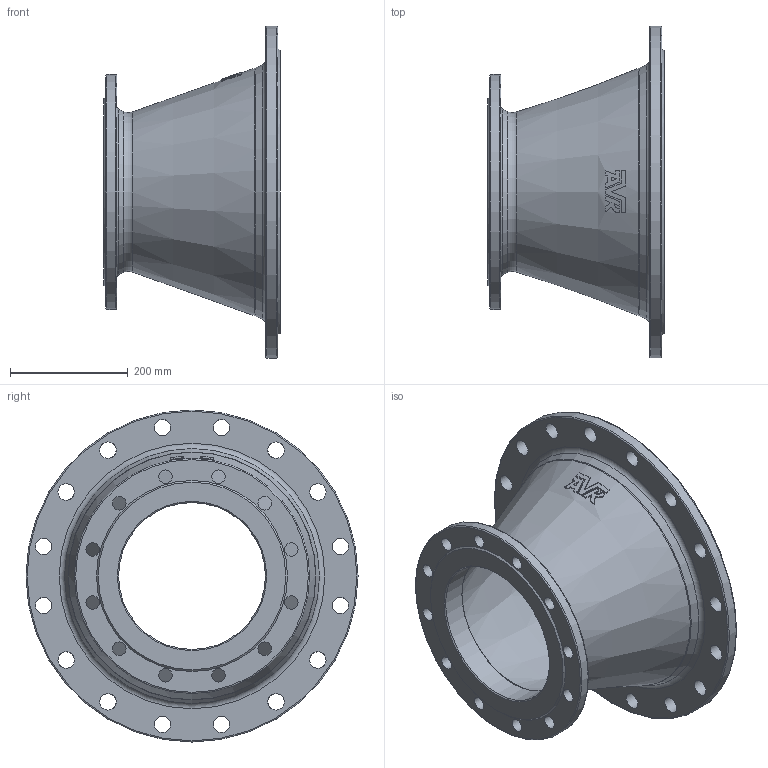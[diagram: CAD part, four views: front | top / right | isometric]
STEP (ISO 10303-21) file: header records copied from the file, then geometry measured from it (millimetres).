
FILE_DESCRIPTION (( 'STEP AP203' ), '1' );
FILE_NAME ('O_712_2210_DN400_DN250_0X_REV01.step', '2024-08-08T06:44:58', ( '' ), ( '' ), 'SwSTEP 2.0', 'SolidWorks 2022', '' );
FILE_SCHEMA (( 'CONFIG_CONTROL_DESIGN' ));
Length unit declared in the file: millimetre
Products named in the file (1): O_712_2210_DN400_DN250_0X_REV01
Bounding box: 300 x 565 x 565 mm (x, y, z)
Volume: 6819544.1 mm3; surface area: 1046367.9 mm2
Topology: 1 solids, 1 shells, 113 faces, 325 edges, 206 vertices
Faces by surface type: plane 57, cylinder 34, cone 12, torus 10
Full cylindrical faces by diameter (mm): 23 x12, 28 x16, 250 x1, 400 x2, 565 x1
Entity records: 3466 total; most frequent: CARTESIAN_POINT 717, DIRECTION 591, ORIENTED_EDGE 484, AXIS2_PLACEMENT_3D 277, EDGE_CURVE 242, EDGE_LOOP 213, VERTEX_POINT 173, CIRCLE 163
